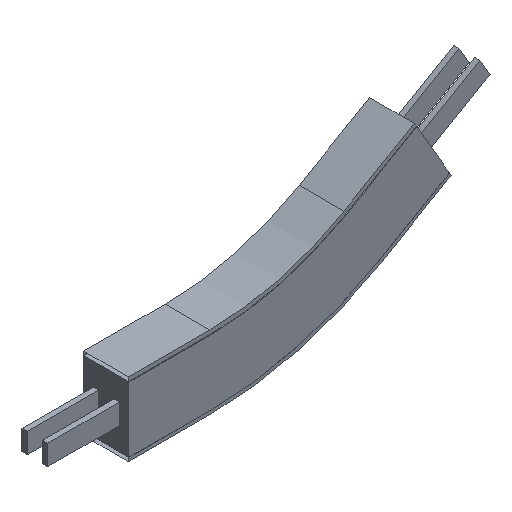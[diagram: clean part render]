
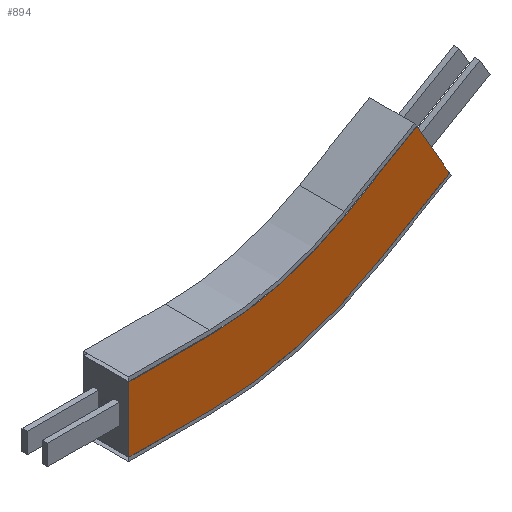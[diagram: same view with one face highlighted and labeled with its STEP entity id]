
A CAD part, isometric view. The second image highlights one B-rep face of the part: STEP entity #894.
In plain terms, the highlighted planar face has unit normal (0, -1, 0).
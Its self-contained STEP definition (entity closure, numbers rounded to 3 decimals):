
#41=CIRCLE('',#968,332.1);
#42=CIRCLE('',#970,267.9);
#84=FACE_OUTER_BOUND('',#136,.T.);
#136=EDGE_LOOP('',(#640,#641,#642,#643,#644,#645,#646,#647));
#185=LINE('',#1292,#295);
#187=LINE('',#1298,#297);
#197=LINE('',#1324,#307);
#198=LINE('',#1327,#308);
#199=LINE('',#1328,#309);
#200=LINE('',#1329,#310);
#295=VECTOR('',#1040,10.);
#297=VECTOR('',#1044,10.);
#307=VECTOR('',#1070,10.);
#308=VECTOR('',#1073,10.);
#309=VECTOR('',#1074,10.);
#310=VECTOR('',#1075,10.);
#402=VERTEX_POINT('',#1285);
#405=VERTEX_POINT('',#1290);
#407=VERTEX_POINT('',#1295);
#408=VERTEX_POINT('',#1297);
#410=VERTEX_POINT('',#1303);
#413=VERTEX_POINT('',#1310);
#416=VERTEX_POINT('',#1322);
#417=VERTEX_POINT('',#1326);
#489=EDGE_CURVE('',#402,#405,#185,.T.);
#491=EDGE_CURVE('',#407,#408,#187,.T.);
#496=EDGE_CURVE('',#410,#402,#41,.T.);
#498=EDGE_CURVE('',#413,#407,#42,.T.);
#505=EDGE_CURVE('',#416,#410,#197,.T.);
#506=EDGE_CURVE('',#416,#417,#198,.T.);
#507=EDGE_CURVE('',#408,#405,#199,.T.);
#508=EDGE_CURVE('',#417,#413,#200,.T.);
#640=ORIENTED_EDGE('',*,*,#506,.F.);
#641=ORIENTED_EDGE('',*,*,#505,.T.);
#642=ORIENTED_EDGE('',*,*,#496,.T.);
#643=ORIENTED_EDGE('',*,*,#489,.T.);
#644=ORIENTED_EDGE('',*,*,#507,.F.);
#645=ORIENTED_EDGE('',*,*,#491,.F.);
#646=ORIENTED_EDGE('',*,*,#498,.F.);
#647=ORIENTED_EDGE('',*,*,#508,.F.);
#848=PLANE('',#974);
#894=ADVANCED_FACE('',(#84),#848,.T.);
#968=AXIS2_PLACEMENT_3D('',#1307,#1052,#1053);
#970=AXIS2_PLACEMENT_3D('',#1312,#1057,#1058);
#974=AXIS2_PLACEMENT_3D('',#1325,#1071,#1072);
#1040=DIRECTION('',(0.866,0.,0.5));
#1044=DIRECTION('',(0.866,0.,0.5));
#1052=DIRECTION('center_axis',(0.,-1.,0.));
#1053=DIRECTION('ref_axis',(0.,0.,
-1.));
#1057=DIRECTION('center_axis',(0.,-1.,0.));
#1058=DIRECTION('ref_axis',(0.,0.,
-1.));
#1070=DIRECTION('',(1.,0.,0.));
#1071=DIRECTION('center_axis',(0.,-1.,0.));
#1072=DIRECTION('ref_axis',(0.,0.,-1.));
#1073=DIRECTION('',(0.,0.,1.));
#1074=DIRECTION('',(0.5,0.,-0.866));
#1075=DIRECTION('',(1.,0.,0.));
#1285=CARTESIAN_POINT('',(246.05,-22.5,12.393));
#1290=CARTESIAN_POINT('',(315.332,-22.5,52.393));
#1292=CARTESIAN_POINT('',(246.05,-22.5,12.393));
#1295=CARTESIAN_POINT('',(213.95,-22.5,67.992));
#1297=CARTESIAN_POINT('',(283.232,-22.5,107.992));
#1298=CARTESIAN_POINT('',(213.95,-22.5,67.992));
#1303=CARTESIAN_POINT('',(80.,-22.5,-32.1));
#1307=CARTESIAN_POINT('Origin',(80.,-22.5,300.));
#1310=CARTESIAN_POINT('',(80.,-22.5,32.1));
#1312=CARTESIAN_POINT('Origin',(80.,-22.5,300.));
#1322=CARTESIAN_POINT('',(0.,-22.5,-32.1));
#1324=CARTESIAN_POINT('',(0.,-22.5,-32.1));
#1325=CARTESIAN_POINT('Origin',(0.,-22.5,32.1));
#1326=CARTESIAN_POINT('',(0.,-22.5,32.1));
#1327=CARTESIAN_POINT('',(0.,-22.5,-32.1));
#1328=CARTESIAN_POINT('',(315.332,-22.5,52.393));
#1329=CARTESIAN_POINT('',(0.,-22.5,32.1));
